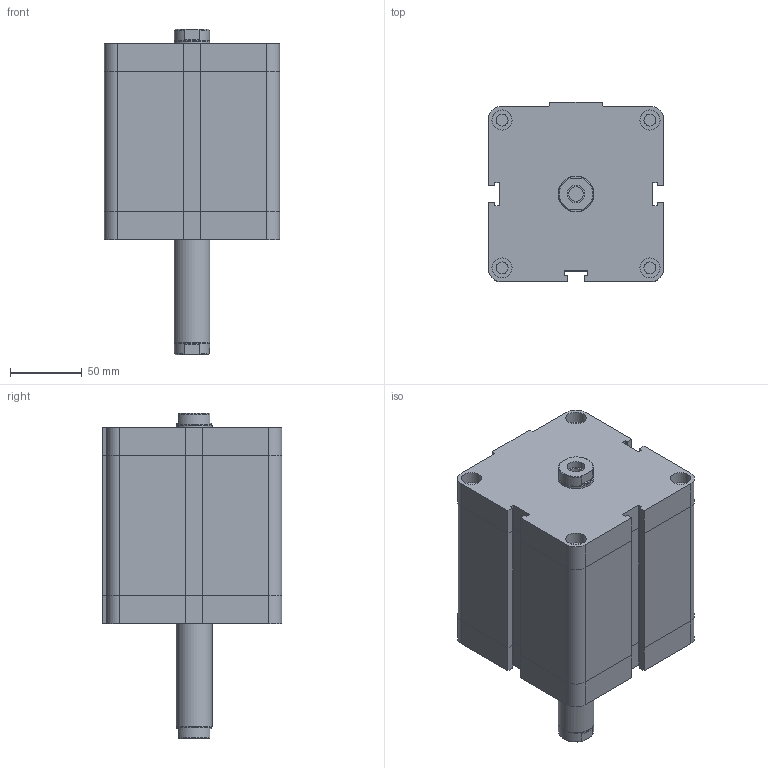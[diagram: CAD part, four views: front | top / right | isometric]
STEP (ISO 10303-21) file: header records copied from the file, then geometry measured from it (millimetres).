
FILE_DESCRIPTION((''),'2;1');
FILE_NAME('I:\Area Tecnica\Disegni\VARIE-3D\Componenti\EUROPE\15##_###_####_03_#\1581_100_0070_03_1.iam.stp','2009-04-20T14:38:50',(''),(''),'Autodesk Inventor 2009','Autodesk Inventor 2009','');
FILE_SCHEMA(('AUTOMOTIVE_DESIGN { 1 0 10303 214 1 1 1 1 }'));
Length unit declared in the file: millimetre
Products named in the file (3): 1581_100_0070_03_1; 1581_100_0070_03_1_C; 1561_100_0070_03_1_S
Assembly tree (2 placements, depth 2):
  1581_100_0070_03_1
    1581_100_0070_03_1_C
    1561_100_0070_03_1_S
Bounding box: 122 x 125 x 226.5 mm (x, y, z)
Volume: 2016233.7 mm3; surface area: 140630.8 mm2
Topology: 2 solids, 2 shells, 174 faces, 379 edges, 231 vertices
Faces by surface type: plane 114, bspline 29, cylinder 25, cone 6
Full cylindrical faces by diameter (mm): 8.376 x4, 10.106 x1, 12.3 x1, 14 x4, 24.5 x2, 25 x1
Entity records: 4758 total; most frequent: CARTESIAN_POINT 1020, DIRECTION 708, ORIENTED_EDGE 676, EDGE_CURVE 338, VECTOR 252, LINE 252, AXIS2_PLACEMENT_3D 228, EDGE_LOOP 226
